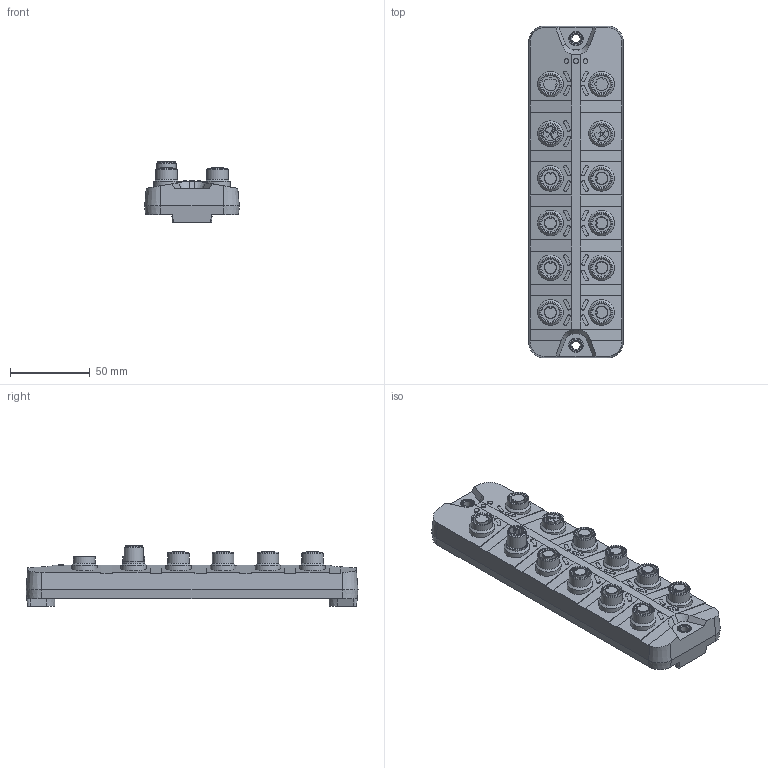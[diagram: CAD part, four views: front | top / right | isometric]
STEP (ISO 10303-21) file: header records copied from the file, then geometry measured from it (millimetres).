
FILE_DESCRIPTION(/* description */ ('STEP AP203'),/* implementation_level */ '2;1');
FILE_NAME(/* name */ 'AL4302',/* time_stamp */ '2024-07-01T10:55:36+02:00',/* author */ ('License CC BY-ND 4.0'),/* organization */ ('CADENAS'),/* preprocessor_version */ 'ST-DEVELOPER v19.3',/* originating_system */ 'PARTsolutions',/* authorisation */ ' ');
FILE_SCHEMA (('CONFIG_CONTROL_DESIGN'));
Length unit declared in the file: millimetre
Products named in the file (1): AL4302
Bounding box: 59.3 x 208 x 38.05 mm (x, y, z)
Volume: 241042.1 mm3; surface area: 44767.9 mm2
Topology: 1 solids, 1 shells, 510 faces, 1207 edges, 779 vertices
Faces by surface type: plane 227, cylinder 217, cone 58, torus 8
Full cylindrical faces by diameter (mm): 1.55 x1, 3 x3, 5.3 x2, 8.85 x1, 10 x7, 10.7 x1, 10.917 x11, 12 x1, 12.1 x11, 13.5 x12, 16 x12
Entity records: 17823 total; most frequent: DIRECTION 2618, CARTESIAN_POINT 2441, ORIENTED_EDGE 2196, EDGE_CURVE 1098, AXIS2_PLACEMENT_3D 1029, VERTEX_POINT 772, EDGE_LOOP 696, FACE_BOUND 696
